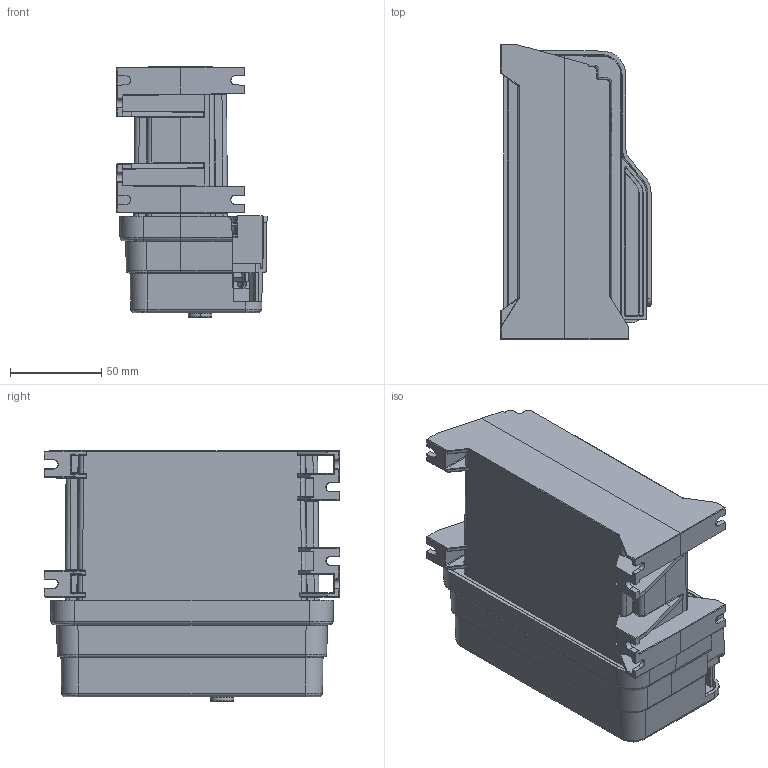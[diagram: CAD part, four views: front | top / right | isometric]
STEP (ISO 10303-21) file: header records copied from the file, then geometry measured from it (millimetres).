
FILE_DESCRIPTION((''),'2;1');
FILE_NAME('105N4460_ASM','2020-10-05T10:56:25',('dehc5645'),(''),'CREO PARAMETRIC BY PTC INC, 2020053','CREO PARAMETRIC BY PTC INC, 2020053','');
FILE_SCHEMA(('CONFIG_CONTROL_DESIGN'));
Products named in the file (14): 105B4455; 105B4428-02_SW0001; 105B4465; 640N2422; 640N0360; 105B1033_ASM; 105B4456; 105B4457; 105A0247; 105B4459; 640N2369; SCREW_TAPPING_3_5X24; 105A0176_BLANK; 105N4460_ASM
Assembly tree (19 placements, depth 3):
  105N4460_ASM
    105B4455
    105B1033_ASM
      105B4428-02_SW0001
      105B4465
      640N2422
      640N0360
    105B4456
    105B4457
    105A0247
    105B4459  x2
    640N2369  x3
    SCREW_TAPPING_3_5X24  x4
    105A0176_BLANK
Bounding box: 82.41 x 162 x 137.5 mm (x, y, z)
Volume: 257786.2 mm3; surface area: 330917.1 mm2
Topology: 25 solids, 28 shells, 8000 faces, 21831 edges, 14163 vertices
Faces by surface type: plane 5946, cylinder 1068, bspline 404, cone 287, torus 193, extrusion 55, sphere 47
Entity records: 256712 total; most frequent: CARTESIAN_POINT 67708, ORIENTED_EDGE 40870, DIRECTION 35589, EDGE_CURVE 20705, VECTOR 17593, LINE 17538, VERTEX_POINT 13458, AXIS2_PLACEMENT_3D 8998
